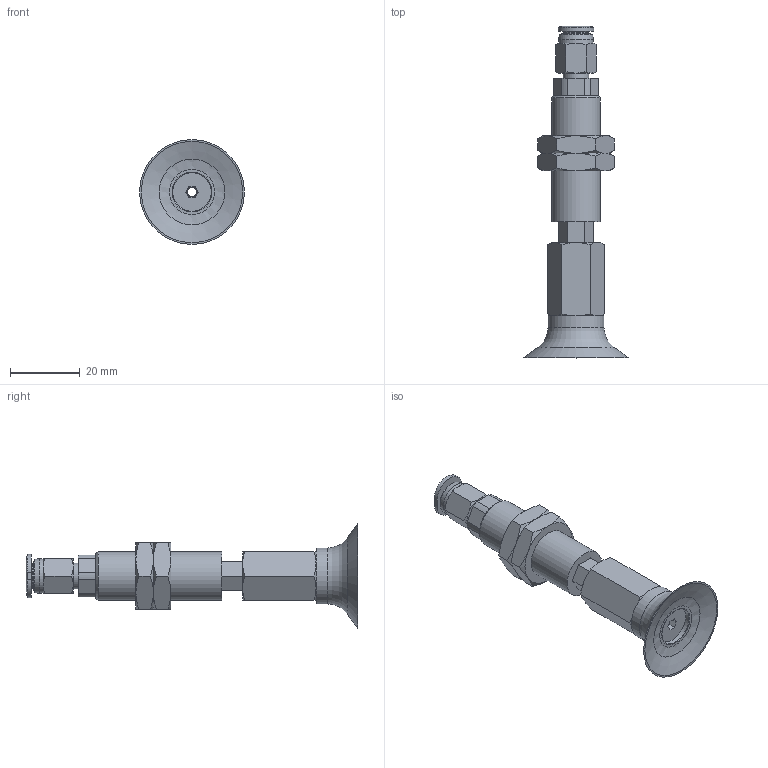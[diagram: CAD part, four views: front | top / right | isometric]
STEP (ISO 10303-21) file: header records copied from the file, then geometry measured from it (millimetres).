
FILE_DESCRIPTION(('STEP AP203'),'1');
FILE_NAME('-O.stp','2025-08-27T03:20:36',(' '),(' '),'Spatial InterOp 3D',' ',' ');
FILE_SCHEMA(('CONFIG_CONTROL_DESIGN'));
Length unit declared in the file: millimetre
Products named in the file (8): BNABPFTH-30-6-※-O; ADAPTER; NAPFTH-30-6-MBODY; TN-PF-30-M6-NAPF; Nut-30-6-h; NAPFTH-30-6-FBODY; BPFG-30-※; PC-C_06-M5
Assembly tree (8 placements, depth 2):
  BNABPFTH-30-6-※-O
    ADAPTER
    NAPFTH-30-6-MBODY
    TN-PF-30-M6-NAPF
    Nut-30-6-h  x2
    NAPFTH-30-6-FBODY
    BPFG-30-※
    PC-C_06-M5
Bounding box: 30 x 94.98 x 30 mm (x, y, z)
Volume: 13971.3 mm3; surface area: 12037 mm2
Topology: 7 solids, 10 shells, 190 faces, 404 edges, 245 vertices
Faces by surface type: plane 85, cone 62, cylinder 28, torus 7, bspline 5, revolution 3
Full cylindrical faces by diameter (mm): 3 x3, 4 x2, 4.134 x1, 4.917 x1, 5 x1, 6 x2, 7 x1, 7.4 x1, 8.2 x1, 10 x1, 11 x2, 12.917 x2, 14 x1, 16 x1
Entity records: 5129 total; most frequent: CARTESIAN_POINT 1410, DIRECTION 687, ORIENTED_EDGE 616, EDGE_CURVE 310, AXIS2_PLACEMENT_3D 285, EDGE_LOOP 234, VERTEX_POINT 212, FACE_OUTER_BOUND 134
